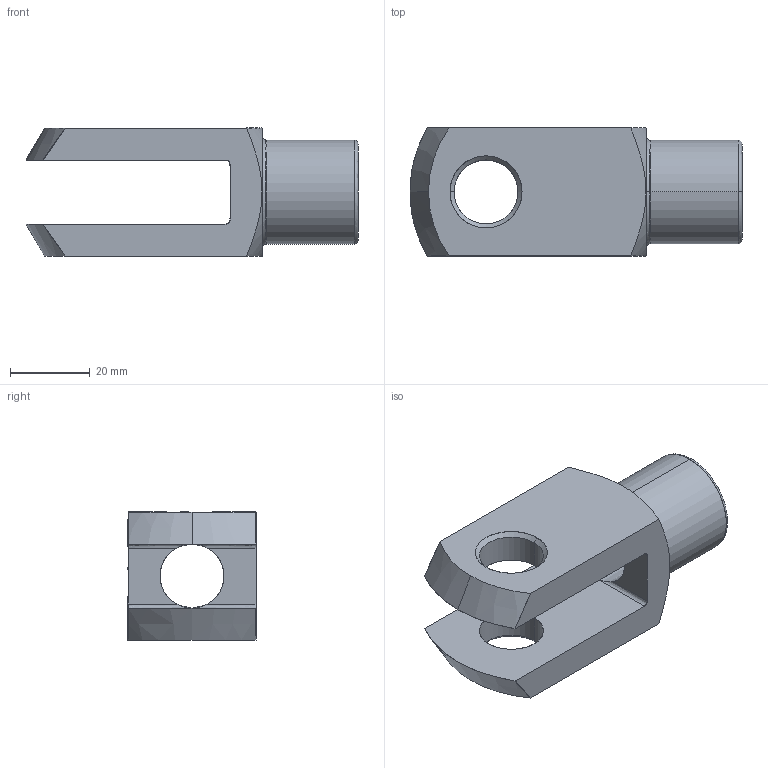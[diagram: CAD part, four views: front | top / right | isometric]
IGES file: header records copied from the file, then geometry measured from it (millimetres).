
Start section: SolidWorks IGES file using analytic representation for surfaces
Global section: file name: C:\Documents and Settings\IANO\My Documents\Wix and Auto CAD Work\CAD Models\Parametric Models\Wix Models\60000\65635_v2\65635_v2_IGES\65635.W0163.igs; native system: SolidWorks 2009; preprocessor: SolidWorks 2009; author: IANO; date: 140117.130722; units: millimetre
Bounding box: 83 x 32 x 32 mm (x, y, z)
Surface area: 13479 mm2 (no closed solid volume)
Topology: 0 solids, 0 shells, 39 faces, 684 edges, 684 vertices
Faces by surface type: revolution 25, bspline 14
